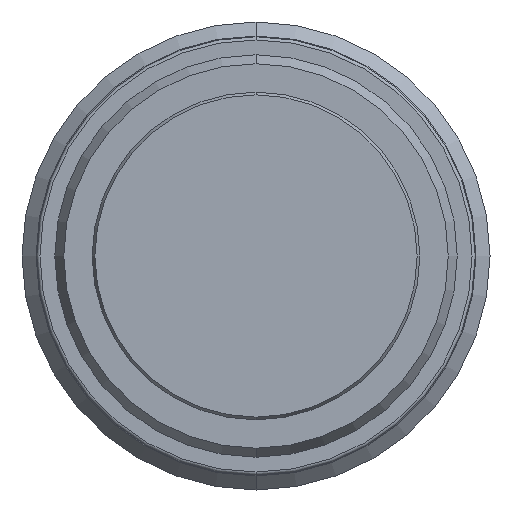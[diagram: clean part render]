
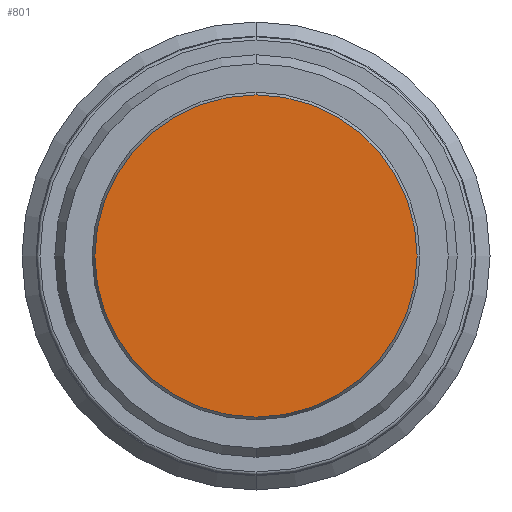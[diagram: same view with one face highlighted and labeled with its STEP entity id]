
A CAD part, front view. The second image highlights one B-rep face of the part: STEP entity #801.
In plain terms, the highlighted planar face has unit normal (0, -1, 0).
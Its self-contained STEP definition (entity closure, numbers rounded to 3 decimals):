
#460=PLANE('',#2244);
#801=ADVANCED_FACE('',(#924),#460,.T.);
#924=FACE_OUTER_BOUND('',#1031,.T.);
#1031=EDGE_LOOP('',(#1321,#1322));
#1321=ORIENTED_EDGE('',*,*,#1762,.F.);
#1322=ORIENTED_EDGE('',*,*,#1869,.F.);
#1607=VERTEX_POINT('',#2999);
#1608=VERTEX_POINT('',#3000);
#1762=EDGE_CURVE('',#1607,#1608,#2012,.T.);
#1869=EDGE_CURVE('',#1608,#1607,#2057,.T.);
#2012=CIRCLE('',#2153,10.327);
#2057=CIRCLE('',#2242,10.327);
#2153=AXIS2_PLACEMENT_3D('',#2998,#2415,#2416);
#2242=AXIS2_PLACEMENT_3D('',#3281,#2635,#2636);
#2244=AXIS2_PLACEMENT_3D('',#3283,#2639,#2640);
#2415=DIRECTION('',(0.,1.,0.));
#2416=DIRECTION('',(0.,0.,1.));
#2635=DIRECTION('',(0.,1.,0.));
#2636=DIRECTION('',(0.,0.,1.));
#2639=DIRECTION('',(0.,-1.,0.));
#2640=DIRECTION('',(0.,0.,1.));
#2998=CARTESIAN_POINT('',(0.,-2.5,0.));
#2999=CARTESIAN_POINT('',(0.,-2.5,10.327));
#3000=CARTESIAN_POINT('',(0.,-2.5,-10.327));
#3281=CARTESIAN_POINT('',(0.,-2.5,0.));
#3283=CARTESIAN_POINT('',(0.,-2.5,0.));
